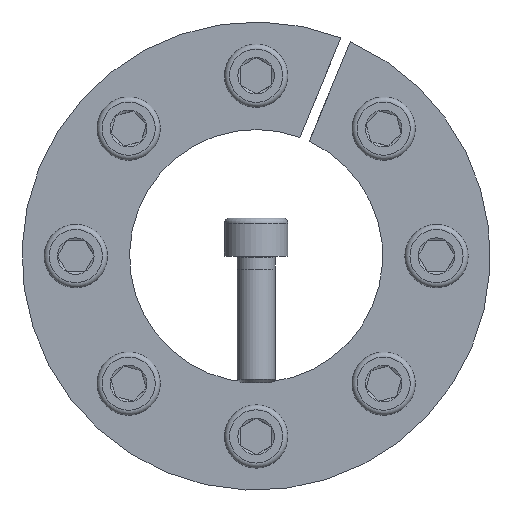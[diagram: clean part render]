
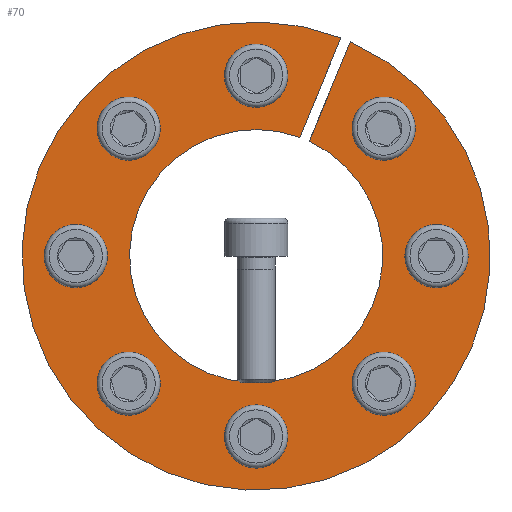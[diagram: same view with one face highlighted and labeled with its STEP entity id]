
A CAD part, front view. The second image highlights one B-rep face of the part: STEP entity #70.
In plain terms, the highlighted planar face has unit normal (0, -1, 0).
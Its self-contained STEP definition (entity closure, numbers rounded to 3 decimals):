
#70 = ADVANCED_FACE( '', ( #157, #158, #159, #160, #161, #162, #163, #164, #165 ), #166, .F. );
#157 = FACE_BOUND( '', #319, .T. );
#158 = FACE_BOUND( '', #320, .T. );
#159 = FACE_BOUND( '', #321, .T. );
#160 = FACE_BOUND( '', #322, .T. );
#161 = FACE_BOUND( '', #323, .T. );
#162 = FACE_BOUND( '', #324, .T. );
#163 = FACE_BOUND( '', #325, .T. );
#164 = FACE_BOUND( '', #326, .T. );
#165 = FACE_OUTER_BOUND( '', #327, .T. );
#166 = PLANE( '', #328 );
#319 = EDGE_LOOP( '', ( #504 ) );
#320 = EDGE_LOOP( '', ( #505 ) );
#321 = EDGE_LOOP( '', ( #506 ) );
#322 = EDGE_LOOP( '', ( #507 ) );
#323 = EDGE_LOOP( '', ( #508 ) );
#324 = EDGE_LOOP( '', ( #509 ) );
#325 = EDGE_LOOP( '', ( #510 ) );
#326 = EDGE_LOOP( '', ( #511 ) );
#327 = EDGE_LOOP( '', ( #512, #513, #514, #515 ) );
#328 = AXIS2_PLACEMENT_3D( '', #516, #517, #518 );
#504 = ORIENTED_EDGE( '', *, *, #801, .T. );
#505 = ORIENTED_EDGE( '', *, *, #802, .T. );
#506 = ORIENTED_EDGE( '', *, *, #803, .T. );
#507 = ORIENTED_EDGE( '', *, *, #804, .T. );
#508 = ORIENTED_EDGE( '', *, *, #805, .T. );
#509 = ORIENTED_EDGE( '', *, *, #806, .T. );
#510 = ORIENTED_EDGE( '', *, *, #807, .T. );
#511 = ORIENTED_EDGE( '', *, *, #808, .T. );
#512 = ORIENTED_EDGE( '', *, *, #809, .T. );
#513 = ORIENTED_EDGE( '', *, *, #810, .T. );
#514 = ORIENTED_EDGE( '', *, *, #811, .T. );
#515 = ORIENTED_EDGE( '', *, *, #812, .F. );
#516 = CARTESIAN_POINT( '', ( 0., 0., 37. ) );
#517 = DIRECTION( '', ( 0., 1., 0. ) );
#518 = DIRECTION( '', ( 0., 0., 1. ) );
#801 = EDGE_CURVE( '', #952, #952, #953, .T. );
#802 = EDGE_CURVE( '', #954, #954, #955, .T. );
#803 = EDGE_CURVE( '', #956, #956, #957, .T. );
#804 = EDGE_CURVE( '', #958, #958, #959, .T. );
#805 = EDGE_CURVE( '', #960, #960, #961, .T. );
#806 = EDGE_CURVE( '', #962, #962, #963, .T. );
#807 = EDGE_CURVE( '', #964, #964, #965, .T. );
#808 = EDGE_CURVE( '', #966, #966, #967, .T. );
#809 = EDGE_CURVE( '', #968, #969, #970, .T. );
#810 = EDGE_CURVE( '', #969, #971, #972, .T. );
#811 = EDGE_CURVE( '', #971, #973, #974, .T. );
#812 = EDGE_CURVE( '', #968, #973, #975, .T. );
#952 = VERTEX_POINT( '', #1239 );
#953 = CIRCLE( '', #1240, 3. );
#954 = VERTEX_POINT( '', #1241 );
#955 = CIRCLE( '', #1242, 3. );
#956 = VERTEX_POINT( '', #1243 );
#957 = CIRCLE( '', #1244, 3. );
#958 = VERTEX_POINT( '', #1245 );
#959 = CIRCLE( '', #1246, 3. );
#960 = VERTEX_POINT( '', #1247 );
#961 = CIRCLE( '', #1248, 3. );
#962 = VERTEX_POINT( '', #1249 );
#963 = CIRCLE( '', #1250, 3. );
#964 = VERTEX_POINT( '', #1251 );
#965 = CIRCLE( '', #1252, 3. );
#966 = VERTEX_POINT( '', #1253 );
#967 = CIRCLE( '', #1254, 3. );
#968 = VERTEX_POINT( '', #1255 );
#969 = VERTEX_POINT( '', #1256 );
#970 = LINE( '', #1257, #1258 );
#971 = VERTEX_POINT( '', #1259 );
#972 = CIRCLE( '', #1260, 37. );
#973 = VERTEX_POINT( '', #1261 );
#974 = LINE( '', #1262, #1263 );
#975 = CIRCLE( '', #1264, 20. );
#1239 = CARTESIAN_POINT( '', ( -18.031, 0., 22.274 ) );
#1240 = AXIS2_PLACEMENT_3D( '', #1443, #1444, #1445 );
#1241 = CARTESIAN_POINT( '', ( -22.274, 0., -18.031 ) );
#1242 = AXIS2_PLACEMENT_3D( '', #1446, #1447, #1448 );
#1243 = CARTESIAN_POINT( '', ( 18.031, 0., -22.274 ) );
#1244 = AXIS2_PLACEMENT_3D( '', #1449, #1450, #1451 );
#1245 = CARTESIAN_POINT( '', ( 22.274, 0., 18.031 ) );
#1246 = AXIS2_PLACEMENT_3D( '', #1452, #1453, #1454 );
#1247 = CARTESIAN_POINT( '', ( 3., 0., 28.5 ) );
#1248 = AXIS2_PLACEMENT_3D( '', #1455, #1456, #1457 );
#1249 = CARTESIAN_POINT( '', ( 28.5, 0., -3. ) );
#1250 = AXIS2_PLACEMENT_3D( '', #1458, #1459, #1460 );
#1251 = CARTESIAN_POINT( '', ( -3., 0., -28.5 ) );
#1252 = AXIS2_PLACEMENT_3D( '', #1461, #1462, #1463 );
#1253 = CARTESIAN_POINT( '', ( -28.5, 0., 3. ) );
#1254 = AXIS2_PLACEMENT_3D( '', #1464, #1465, #1466 );
#1255 = CARTESIAN_POINT( '', ( 6.897, 0., 18.773 ) );
#1256 = CARTESIAN_POINT( '', ( 13.405, 0., 34.486 ) );
#1257 = CARTESIAN_POINT( '', ( 6.897, 0., 18.773 ) );
#1258 = VECTOR( '', #1467, 1000. );
#1259 = CARTESIAN_POINT( '', ( 14.907, 0., 33.864 ) );
#1260 = AXIS2_PLACEMENT_3D( '', #1468, #1469, #1470 );
#1261 = CARTESIAN_POINT( '', ( 8.398, 0., 18.151 ) );
#1262 = CARTESIAN_POINT( '', ( 14.91, 0., 33.873 ) );
#1263 = VECTOR( '', #1471, 1000. );
#1264 = AXIS2_PLACEMENT_3D( '', #1472, #1473, #1474 );
#1443 = CARTESIAN_POINT( '', ( -20.153, 0., 20.153 ) );
#1444 = DIRECTION( '', ( 0., 1., 0. ) );
#1445 = DIRECTION( '', ( 0.707, 0., 0.707 ) );
#1446 = CARTESIAN_POINT( '', ( -20.153, 0., -20.153 ) );
#1447 = DIRECTION( '', ( 0., 1., 0. ) );
#1448 = DIRECTION( '', ( -0.707, 0., 0.707 ) );
#1449 = CARTESIAN_POINT( '', ( 20.153, 0., -20.153 ) );
#1450 = DIRECTION( '', ( 0., 1., 0. ) );
#1451 = DIRECTION( '', ( -0.707, 0., -0.707 ) );
#1452 = CARTESIAN_POINT( '', ( 20.153, 0., 20.153 ) );
#1453 = DIRECTION( '', ( 0., 1., 0. ) );
#1454 = DIRECTION( '', ( 0.707, 0., -0.707 ) );
#1455 = CARTESIAN_POINT( '', ( 0., 0., 28.5 ) );
#1456 = DIRECTION( '', ( 0., 1., 0. ) );
#1457 = DIRECTION( '', ( 1., 0., 0. ) );
#1458 = CARTESIAN_POINT( '', ( 28.5, 0., 0. ) );
#1459 = DIRECTION( '', ( 0., 1., 0. ) );
#1460 = DIRECTION( '', ( 0., 0., -1. ) );
#1461 = CARTESIAN_POINT( '', ( 0., 0., -28.5 ) );
#1462 = DIRECTION( '', ( 0., 1., 0. ) );
#1463 = DIRECTION( '', ( -1., 0., 0. ) );
#1464 = CARTESIAN_POINT( '', ( -28.5, 0., 0. ) );
#1465 = DIRECTION( '', ( 0., 1., 0. ) );
#1466 = DIRECTION( '', ( 0., 0., 1. ) );
#1467 = DIRECTION( '', ( 0.383, 0., 0.924 ) );
#1468 = CARTESIAN_POINT( '', ( 0., 0., 0. ) );
#1469 = DIRECTION( '', ( 0., -1., 0. ) );
#1470 = DIRECTION( '', ( 0., 0., -1. ) );
#1471 = DIRECTION( '', ( -0.383, 0., -0.924 ) );
#1472 = CARTESIAN_POINT( '', ( 0., 0., 0. ) );
#1473 = DIRECTION( '', ( 0., -1., 0. ) );
#1474 = DIRECTION( '', ( 0., 0., -1. ) );
